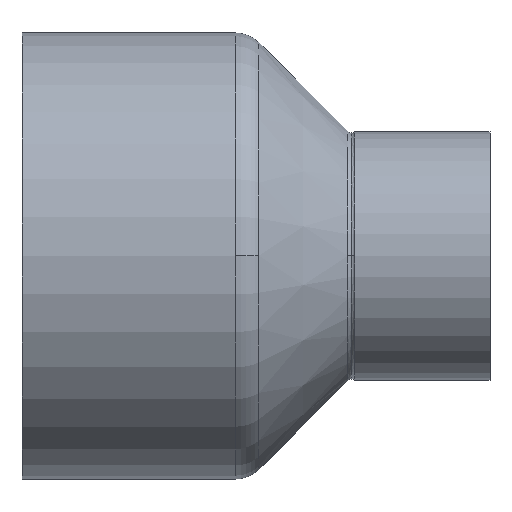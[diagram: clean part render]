
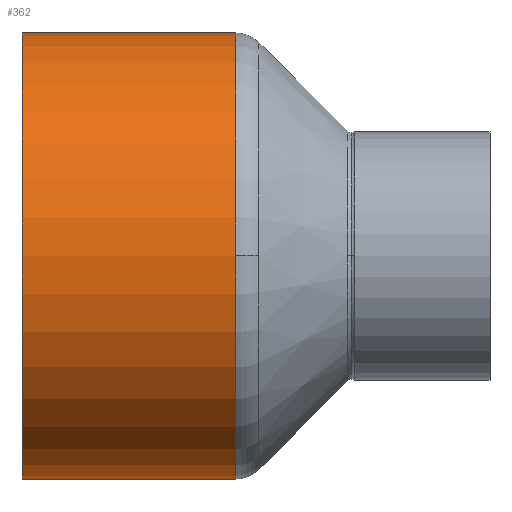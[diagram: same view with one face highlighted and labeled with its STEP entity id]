
A CAD part, top view. The second image highlights one B-rep face of the part: STEP entity #362.
In plain terms, the highlighted cylindrical face has radius 54 mm (diameter 108 mm), a partial arc.
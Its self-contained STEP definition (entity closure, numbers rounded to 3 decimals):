
#312=CARTESIAN_POINT('',(25.855,0.0,0.0));
#313=DIRECTION('',(1.0,0.0,0.0));
#314=DIRECTION('',(0.0,1.0,0.0));
#315=AXIS2_PLACEMENT_3D('',#312,#313,#314);
#316=CYLINDRICAL_SURFACE('',#315,54.0);
#317=CARTESIAN_POINT('',(0.0,54.0,0.0));
#318=VERTEX_POINT('',#317);
#319=CARTESIAN_POINT('',(51.71,54.0,0.0));
#320=VERTEX_POINT('',#319);
#321=CARTESIAN_POINT('',(0.0,54.0,0.0));
#322=DIRECTION('',(1.0,0.0,0.0));
#323=VECTOR('',#322,51.71);
#324=LINE('',#321,#323);
#325=EDGE_CURVE('',#318,#320,#324,.T.);
#326=ORIENTED_EDGE('',*,*,#325,.F.);
#327=CARTESIAN_POINT('',(0.0,-54.0,0.));
#328=VERTEX_POINT('',#327);
#329=CARTESIAN_POINT('',(0.0,0.0,0.0));
#330=DIRECTION('',(1.0,0.0,0.0));
#331=DIRECTION('',(0.0,1.0,0.0));
#332=AXIS2_PLACEMENT_3D('',#329,#330,#331);
#333=CIRCLE('',#332,54.0);
#334=EDGE_CURVE('',#318,#328,#333,.T.);
#335=ORIENTED_EDGE('',*,*,#334,.T.);
#336=CARTESIAN_POINT('',(51.71,-54.0,0.));
#337=VERTEX_POINT('',#336);
#338=CARTESIAN_POINT('',(51.71,-54.0,0.));
#339=DIRECTION('',(-1.0,0.0,0.0));
#340=VECTOR('',#339,51.71);
#341=LINE('',#338,#340);
#342=EDGE_CURVE('',#337,#328,#341,.T.);
#343=ORIENTED_EDGE('',*,*,#342,.F.);
#344=CARTESIAN_POINT('',(51.71,0.,54.0));
#345=VERTEX_POINT('',#344);
#346=CARTESIAN_POINT('',(51.71,0.0,0.0));
#347=DIRECTION('',(1.0,0.0,0.0));
#348=DIRECTION('',(0.0,1.0,0.0));
#349=AXIS2_PLACEMENT_3D('',#346,#347,#348);
#350=CIRCLE('',#349,54.0);
#351=EDGE_CURVE('',#345,#337,#350,.T.);
#352=ORIENTED_EDGE('',*,*,#351,.F.);
#353=CARTESIAN_POINT('',(51.71,0.0,0.0));
#354=DIRECTION('',(1.0,0.0,0.0));
#355=DIRECTION('',(0.0,1.0,0.0));
#356=AXIS2_PLACEMENT_3D('',#353,#354,#355);
#357=CIRCLE('',#356,54.0);
#358=EDGE_CURVE('',#320,#345,#357,.T.);
#359=ORIENTED_EDGE('',*,*,#358,.F.);
#360=EDGE_LOOP('',(#326,#335,#343,#352,#359));
#361=FACE_OUTER_BOUND('',#360,.T.);
#362=ADVANCED_FACE('',(#361),#316,.T.);
